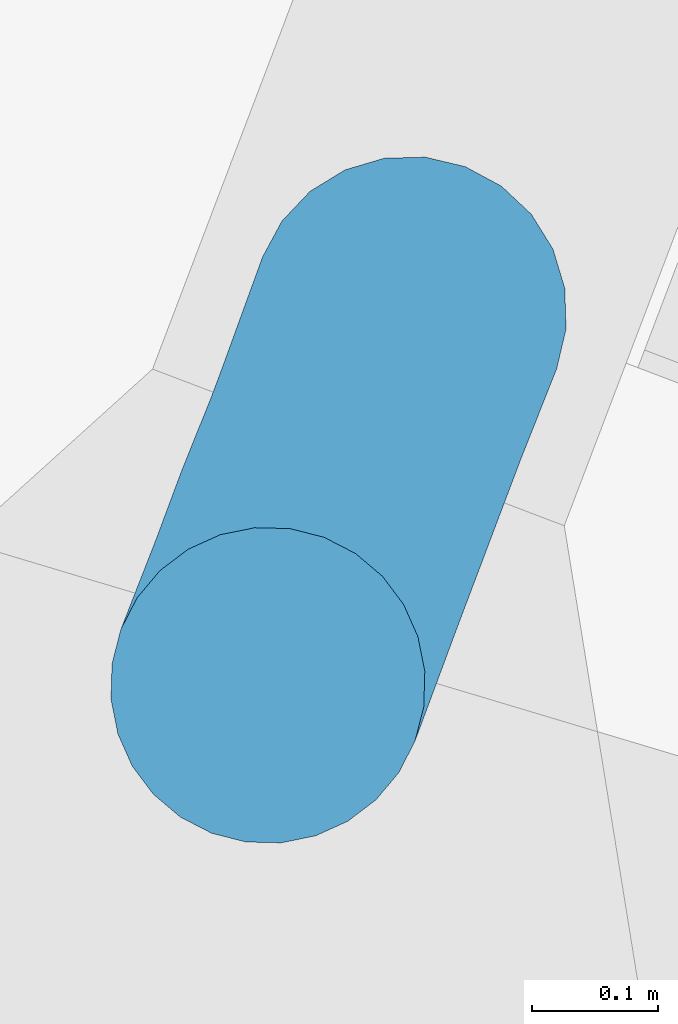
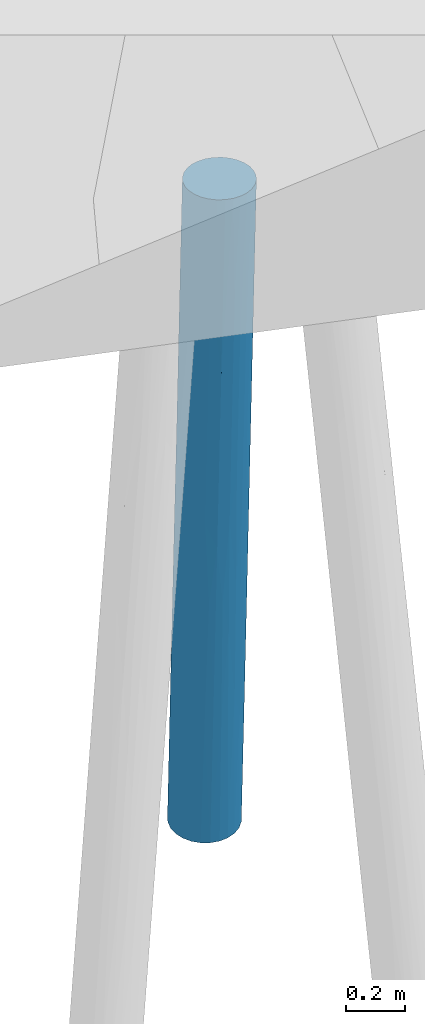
# One storey, part 3 of 46: 1 pile.
"""IFC2X3 building model written with IfcOpenShell, lengths in millimetres."""

from ifc_helpers import new_model, entity, si_unit, converted_unit, derived_unit, direction, frame, origin, place, context, subcontext, project, spatial, faceted_brep, source, transform, mapped, material, type_object, type_shapes, element, save


model = new_model("IFC2X3")

# Units and contexts
model_context = context("Model", 3, precision=0.01, world=origin(), true_north=direction((6.123233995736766e-17, 1.0)))
body_context = subcontext(model_context, "Body", "Model", "MODEL_VIEW")
ifc_project = project(units=[si_unit("LENGTHUNIT", "METRE", prefix="MILLI"), converted_unit("PLANEANGLEUNIT", "DEGREE", entity("IfcPlaneAngleMeasure", 0.017453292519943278), si_unit("PLANEANGLEUNIT", "RADIAN"), dimensions=[0, 0, 0, 0, 0, 0, 0]), si_unit("AREAUNIT", "SQUARE_METRE"), derived_unit("THERMALTRANSMITTANCEUNIT", [(si_unit("MASSUNIT", "GRAM", prefix="KILO"), 1), (si_unit("THERMODYNAMICTEMPERATUREUNIT", "KELVIN"), -1), (si_unit("TIMEUNIT", "SECOND"), -3)])], contexts=[model_context])

# Site, building, storey
site_placement = place(None, frame((-72937.88054949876, 11621.45624098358, 0.0), z_axis=(0.0, 0.0, 1.0), x_axis=(0.9346418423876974, -0.35559053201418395, 0.0)))
site = spatial("IfcSite", under=ifc_project, at=site_placement, Name="Default", CompositionType="ELEMENT")
building_placement = place(site_placement, origin())
building = spatial("IfcBuilding", under=site, at=building_placement, CompositionType="ELEMENT")
storey_placement = place(building_placement, origin())
storey = spatial("IfcBuildingStorey", under=building, at=storey_placement, Name="00 begane grond", CompositionType="ELEMENT", Elevation=0.0)

# Pile
ifc_material = material(Name="beton_gewapend_prefab-element_c45/55")
type_product = type_object("IfcTypeProduct", Name="Type 01", material=ifc_material)
shared_shape = source(origin(), body_context, "Body", "Brep", [
    faceted_brep([(124.838162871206, -27.815116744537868, -1150.0), (115.53639022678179, -54.2354673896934, -1150.0), (72.36643070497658, -41.239861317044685, -1587.2480771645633), (-111.09194578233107, -54.23546738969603, -1150.0), (-165.1894529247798, -41.33003827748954, -1588.444859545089), (-182.07875772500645, -65.1457063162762, -1842.6627389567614), (-30.14575159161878, -64.60051474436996, -2410.3553271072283), (32.98344934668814, -64.94314047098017, -1840.3127773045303), (15.031797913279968, -88.27496307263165, -1836.1297740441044), (41.77006032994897, 0.0, -1925.9925992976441), (100.55257203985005, -77.9362252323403, -1150.0), (80.6380595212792, -97.7289353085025, -1150.0), (-180.54618184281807, -99.16916754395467, -3483.986786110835), (-108.1734310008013, -106.74566752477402, -2732.5343267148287), (-175.6519081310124, -115.48494156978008, -3184.0354063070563), (-42.91884640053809, -117.90464735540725, -1932.203812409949), (56.79144948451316, -112.62110848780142, -1150.0), (30.20851053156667, -121.8659890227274, -1150.0), (-120.39371842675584, -27.81511674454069, -1150.0), (-242.98263969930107, -88.62069146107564, -2558.5627355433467), (-162.25875578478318, -88.50075404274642, -1830.9574517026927), (-245.70385641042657, -64.88368548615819, -2413.843724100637), (-194.4421984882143, -32.35238063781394, -4013.333582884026), (-133.56769714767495, -28.49629953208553, -3474.2266886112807), (-151.93048965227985, -53.33845094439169, -3561.073967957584), (12.222467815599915, -106.275938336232, -1655.8961403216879), (-23.42762089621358, -124.20079095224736, -1508.642990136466), (-80.64748703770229, -124.2366812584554, -1770.9263967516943), (-73.06982999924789, -124.27812918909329, -1949.101189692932), (-265.024992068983, -123.93060767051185, -3407.479310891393), (-314.4444444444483, -125.0, -4000.0), (-240.21076201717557, -123.93060767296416, -3479.642475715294), (-190.20897761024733, 0.0, -4013.803940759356), (-117.33081280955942, 0.0, -3357.900457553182), (-25.764066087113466, -121.86598902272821, -1150.0), (2.2222222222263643, -125.0, -1150.0), (-317.9689709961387, -23.60182842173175, -2920.157783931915), (-375.26894382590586, -28.366113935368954, -3445.0277270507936), (-326.96702366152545, -47.83542903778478, -3066.9425894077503), (-73.70805836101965, -23.187811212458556, -2945.6497765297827), (16.085837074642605, -41.18767244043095, -2093.938466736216), (-39.92708990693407, -41.47720200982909, -2597.136214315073), (-183.66520352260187, -123.01104339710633, -3024.1067526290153), (-196.28435151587, -123.47165352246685, -2760.09510592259), (-252.3267110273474, -108.25317547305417, -4006.901970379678), (-226.59670338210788, -88.38834764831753, -4009.7608601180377), (-206.8533741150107, -62.49999999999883, -4011.9545633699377), (-148.27550792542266, -76.09517863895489, -3402.494577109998), (-119.74622127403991, -106.37235269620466, -1653.229951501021), (-99.40312932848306, -118.21391771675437, -1696.7443345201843), (-52.347005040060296, -112.62110848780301, -1150.0), (-238.2779479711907, -106.2597512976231, -2718.3665211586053), (-185.92128902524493, -102.46025049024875, -2194.904710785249), (-42.820885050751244, -102.58547775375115, -2202.1491422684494), (-156.2252162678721, -118.09364807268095, -2204.9892079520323), (-264.72929865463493, -115.48494155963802, -3119.3954545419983), (-319.0271104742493, -115.48494156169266, -3608.075760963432), (-76.19361507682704, -97.72893530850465, -1150.0), (-96.10812759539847, -77.93622523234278, -1150.0), (-44.45199380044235, 0.0, -2701.9910864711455), (-1.3402226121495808, 0.0, -2313.985145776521), (-292.9202820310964, -72.79893776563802, -2886.1326580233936), (-292.6922084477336, -91.63383624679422, -3034.349570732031), (-282.2899395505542, -120.74072828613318, -4003.5727227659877), (-227.3188222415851, -115.48494156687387, -3649.037633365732), (-209.76851175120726, 0.0, -1925.9934634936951), (-221.60043037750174, -41.38232604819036, -2096.3096577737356), (-376.56217786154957, -108.25317547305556, -3993.0980296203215), (-346.59894933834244, -120.74072828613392, -3996.4272772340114), (-66.21715172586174, -88.15377228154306, -2568.4634430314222), (-129.97696806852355, -118.32629651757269, -2704.7019880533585), (-123.5470158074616, 0.0, -1150.0), (-377.52744650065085, -52.97984274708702, -3542.5215927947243), (-345.70385271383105, -76.09517862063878, -3383.3196685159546), (-275.8885685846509, -42.22399193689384, -2587.6075033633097), (-422.0355147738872, -62.50000000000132, -3988.0454366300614), (-402.29218550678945, -88.38834764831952, -3990.239139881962), (-331.8470727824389, -99.16916753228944, -3467.5525053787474), (-132.4434459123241, -124.68323586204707, -2281.458802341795), (-96.52658231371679, -47.8354290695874, -3084.4998642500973), (-89.11715414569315, -71.65077909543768, -2899.5648185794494), (127.99146025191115, 0.0, -1150.0), (-252.87925972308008, 0.0, -2313.9901952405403), (-122.93481462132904, -90.89446365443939, -3053.447507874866), (-434.4466904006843, -32.352380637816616, -3986.6664171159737), (-438.679911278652, 0.0, -3986.1960592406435), (-141.73877836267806, -124.16072599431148, -2576.5969257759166), (-210.06991733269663, -117.23436667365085, -2667.8819222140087), (-295.9900076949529, 0.0, -2701.9869269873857), (-367.3349594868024, 0.0, -3344.0914931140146), (124.83816287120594, 27.815116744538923, -1150.0), (115.53639022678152, 54.23546738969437, -1150.0), (100.55257203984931, 77.93622523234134, -1150.0), (80.63805952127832, 97.7289353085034, -1150.0), (56.79144948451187, 112.62110848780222, -1150.0), (30.20851053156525, 121.86598902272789, -1150.0), (2.22222222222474, 125.0, -1150.0), (-25.76406608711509, 121.86598902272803, -1150.0), (-52.34700504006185, 112.62110848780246, -1150.0), (-76.1936150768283, 97.72893530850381, -1150.0), (-96.10812759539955, 77.93622523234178, -1150.0), (-111.09194578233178, 54.23546738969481, -1150.0), (-120.39371842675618, 27.815116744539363, -1150.0), (-96.52658225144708, 47.83542901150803, -3084.4998639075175), (-133.5676976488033, 28.496299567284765, -3474.2266930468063), (-151.9304895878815, 53.338451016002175, -3561.073967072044), (-176.7825211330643, 87.58614607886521, -1953.453255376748), (-126.78568187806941, 88.44799753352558, -1511.2211246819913), (-140.32328536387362, 105.94191584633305, -1832.1538289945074), (-185.53475823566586, 41.3488976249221, -1771.6124540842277), (-98.5233768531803, 124.24251446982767, -1932.2861052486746), (-159.3540506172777, 67.83984168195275, -1653.46778938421), (-221.49211536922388, 66.66107193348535, -2205.8974607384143), (-402.2921855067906, 88.38834764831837, -3990.239139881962), (-352.8086337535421, 76.09517892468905, -3447.262699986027), (-312.10423006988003, 99.16916769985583, -3289.866922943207), (-282.2899395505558, 120.74072828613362, -4003.5727227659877), (-314.44444444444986, 125.0, -4000.0), (-235.4135805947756, 123.93060766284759, -3436.467843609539), (-362.94366171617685, 26.27355326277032, -3329.855963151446), (-328.2998352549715, 47.83542988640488, -3078.9378969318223), (-384.2243809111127, 47.83542945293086, -3582.258806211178), (-376.562177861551, 108.25317547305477, -3993.0980296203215), (-180.54618171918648, 99.16916751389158, -3483.9867853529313), (-148.27550783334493, 76.0951785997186, -3402.49457655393), (-226.59670338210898, 88.38834764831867, -4009.7608601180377), (-163.5203657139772, 118.46525212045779, -2280.489865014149), (-104.92272192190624, 118.27912572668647, -1748.143371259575), (-89.11715398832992, 71.6507788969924, -2899.5648184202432), (-39.927089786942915, 41.4772017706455, -2597.1362139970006), (-274.28881423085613, 82.15433137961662, -2785.484682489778), (-221.11735801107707, 106.04994682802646, -2560.8655013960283), (-422.03551477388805, 62.49999999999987, -3988.0454366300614), (-434.4466904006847, 32.35238063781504, -3986.6664171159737), (-180.90977316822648, 122.95522291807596, -3002.0876370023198), (-141.73877802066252, 124.16072595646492, -2576.596925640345), (-129.97696798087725, 118.32629644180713, -2704.701989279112), (-180.2811496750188, 124.04234815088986, -2652.685215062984), (-242.59310629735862, 123.930607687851, -3205.592340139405), (-232.5682987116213, 117.68101498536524, -2881.4778788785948), (-301.7888662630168, 115.48494161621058, -3452.931564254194), (-346.598949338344, 120.7407282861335, -3996.4272772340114), (-206.85337411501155, 62.50000000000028, -4011.9545633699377), (-42.918846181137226, 117.90464729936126, -1932.2038118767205), (-83.49872980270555, 124.18127902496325, -2050.8284888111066), (-29.55955353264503, 124.19873841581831, -1563.9938530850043), (15.03179802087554, 88.27496298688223, -1836.1297738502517), (32.983449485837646, 64.94314037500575, -1840.3127765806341), (-30.14575143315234, 64.60051457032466, -2410.3553266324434), (-42.820884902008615, 102.58547764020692, -2202.149142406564), (12.222467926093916, 106.27593827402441, -1655.89614023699), (-73.70805863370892, 23.18781108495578, -2945.6497792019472), (16.08583725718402, 41.18767230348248, -2093.9384655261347), (72.36643080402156, 41.2398612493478, -1587.2480764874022), (-221.94118502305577, 91.78881553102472, -2399.105716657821), (-108.17343087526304, 106.7456674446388, -2732.5343267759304), (-66.2171515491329, 88.15377212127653, -2568.463442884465), (-122.93481449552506, 90.89446347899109, -3053.447508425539), (-262.27997921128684, 34.77836369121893, -2443.29023072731), (-227.3188223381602, 115.48494155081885, -3649.037634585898), (-252.32671102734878, 108.25317547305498, -4006.901970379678), (-277.036285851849, 61.03344887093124, -2675.5040755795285), (-194.44219848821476, 32.35238063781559, -4013.333582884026), (-312.1095376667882, 26.52940126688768, -2872.8494770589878), (-175.65190824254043, 115.48494153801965, -3184.035408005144)], [[[0, 1, 2]], [[3, 4, 5]], [[6, 7, 8]], [[9, 0, 2]], [[8, 10, 11]], [[12, 13, 14]], [[15, 16, 17]], [[4, 3, 18]], [[19, 20, 21]], [[22, 23, 24]], [[11, 16, 25]], [[26, 27, 28]], [[29, 30, 31]], [[32, 33, 23]], [[10, 8, 7]], [[34, 27, 35]], [[36, 37, 38]], [[33, 39, 23]], [[40, 6, 41]], [[42, 43, 29]], [[44, 45, 12]], [[20, 5, 21]], [[26, 17, 35]], [[45, 46, 47]], [[48, 49, 50]], [[19, 51, 52]], [[53, 25, 15]], [[46, 24, 47]], [[48, 54, 49]], [[55, 56, 29]], [[57, 58, 20]], [[40, 59, 60, 9]], [[61, 62, 19]], [[2, 7, 40]], [[63, 44, 64]], [[65, 66, 4]], [[3, 5, 58]], [[20, 52, 48]], [[67, 68, 56]], [[29, 43, 55]], [[69, 53, 13]], [[13, 70, 14]], [[18, 71, 65]], [[72, 73, 38]], [[68, 30, 29]], [[74, 36, 38]], [[62, 51, 19]], [[38, 61, 74]], [[37, 72, 38]], [[75, 76, 73]], [[76, 77, 73]], [[57, 20, 48]], [[12, 45, 47]], [[6, 40, 7]], [[78, 54, 43]], [[27, 78, 28]], [[79, 41, 80]], [[81, 0, 9]], [[66, 65, 82]], [[41, 39, 59]], [[13, 12, 83]], [[76, 67, 77]], [[84, 37, 85]], [[21, 61, 19]], [[30, 63, 31]], [[31, 42, 29]], [[47, 80, 83]], [[64, 12, 14]], [[56, 77, 67]], [[51, 62, 77]], [[64, 31, 63]], [[14, 70, 42]], [[1, 10, 7]], [[9, 2, 40]], [[7, 2, 1]], [[6, 8, 69]], [[80, 6, 69]], [[6, 80, 41]], [[65, 4, 18]], [[5, 4, 66]], [[5, 66, 21]], [[58, 5, 20]], [[74, 21, 66]], [[61, 38, 73]], [[78, 43, 86]], [[55, 87, 51]], [[83, 80, 69]], [[79, 80, 47]], [[83, 69, 13]], [[47, 83, 12]], [[53, 69, 8]], [[70, 15, 86]], [[25, 53, 8]], [[70, 53, 15]], [[11, 25, 8]], [[15, 25, 16]], [[39, 41, 79]], [[59, 40, 41]], [[23, 39, 79]], [[33, 59, 39]], [[24, 23, 79]], [[32, 23, 22]], [[47, 24, 79]], [[22, 24, 46]], [[61, 21, 74]], [[62, 73, 77]], [[73, 62, 61]], [[51, 77, 55]], [[87, 55, 43]], [[19, 52, 20]], [[51, 54, 52]], [[27, 49, 54]], [[54, 48, 52]], [[57, 48, 50]], [[70, 13, 53]], [[42, 70, 86]], [[43, 42, 86]], [[14, 42, 31]], [[29, 56, 68]], [[74, 66, 82]], [[88, 89, 36, 82]], [[37, 36, 89]], [[85, 37, 89]], [[72, 84, 75]], [[84, 72, 37]], [[73, 72, 75]], [[43, 54, 87]], [[54, 51, 87]], [[36, 74, 82]], [[77, 56, 55]], [[28, 86, 15]], [[54, 78, 27]], [[86, 28, 78]], [[26, 15, 17]], [[27, 26, 35]], [[15, 26, 28]], [[12, 64, 44]], [[31, 64, 14]], [[27, 34, 49]], [[50, 49, 34]], [[34, 35, 17, 16, 11, 10, 1, 0, 81, 90, 91, 92, 93, 94, 95, 96, 97, 98, 99, 100, 101, 102, 71, 18, 3, 58, 57, 50]], [[103, 104, 105]], [[90, 81, 9]], [[106, 107, 108]], [[109, 102, 101]], [[110, 97, 96]], [[111, 112, 109]], [[113, 114, 115]], [[116, 117, 118]], [[98, 108, 99]], [[119, 120, 121]], [[113, 115, 122]], [[106, 112, 111]], [[123, 124, 125]], [[110, 126, 127]], [[119, 85, 89]], [[65, 71, 102]], [[103, 128, 129]], [[115, 130, 131]], [[108, 127, 126]], [[132, 133, 121]], [[134, 135, 136]], [[137, 138, 139]], [[140, 141, 122]], [[142, 125, 124]], [[143, 144, 145]], [[146, 147, 148]], [[146, 149, 150]], [[130, 115, 114]], [[151, 104, 103]], [[143, 136, 144]], [[9, 152, 153]], [[140, 122, 115]], [[143, 95, 94]], [[98, 97, 127]], [[92, 146, 93]], [[138, 140, 139]], [[131, 130, 154]], [[129, 151, 103]], [[117, 141, 138]], [[118, 117, 138]], [[155, 156, 157]], [[96, 95, 145]], [[109, 158, 65]], [[116, 159, 160]], [[143, 149, 136]], [[153, 91, 90]], [[105, 124, 103]], [[112, 158, 109]], [[146, 148, 156]], [[100, 111, 101]], [[128, 157, 156]], [[147, 92, 91]], [[91, 153, 147]], [[150, 93, 146]], [[156, 155, 149]], [[161, 158, 112]], [[65, 102, 109]], [[113, 132, 114]], [[139, 140, 115]], [[125, 160, 123]], [[152, 9, 60]], [[162, 104, 32]], [[148, 128, 156]], [[138, 137, 134]], [[163, 158, 120]], [[159, 118, 164]], [[121, 114, 132]], [[130, 161, 112]], [[161, 114, 120]], [[112, 106, 154]], [[139, 115, 131]], [[138, 141, 140]], [[163, 120, 119]], [[158, 88, 82, 65]], [[159, 123, 160]], [[155, 157, 123]], [[9, 153, 90]], [[147, 153, 152]], [[147, 152, 148]], [[92, 147, 146]], [[129, 148, 152]], [[128, 103, 124]], [[131, 126, 139]], [[135, 134, 137]], [[108, 126, 131]], [[110, 144, 137]], [[139, 126, 137]], [[110, 137, 126]], [[128, 148, 129]], [[157, 124, 123]], [[124, 157, 128]], [[155, 123, 164]], [[136, 155, 164]], [[156, 149, 146]], [[136, 149, 155]], [[150, 143, 94]], [[143, 150, 149]], [[93, 150, 94]], [[101, 111, 109]], [[129, 152, 60]], [[59, 33, 151]], [[104, 151, 33]], [[32, 104, 33]], [[105, 162, 142]], [[162, 105, 104]], [[124, 105, 142]], [[98, 127, 108]], [[97, 110, 127]], [[134, 164, 118]], [[136, 135, 144]], [[164, 134, 136]], [[138, 134, 118]], [[133, 85, 119]], [[114, 121, 120]], [[133, 119, 121]], [[163, 89, 88]], [[89, 163, 119]], [[88, 158, 163]], [[59, 151, 129]], [[60, 59, 129]], [[100, 99, 107]], [[111, 100, 107]], [[154, 108, 131]], [[108, 107, 99]], [[111, 107, 106]], [[137, 144, 135]], [[145, 110, 96]], [[143, 145, 95]], [[110, 145, 144]], [[118, 159, 116]], [[123, 159, 164]], [[114, 161, 130]], [[158, 161, 120]], [[112, 154, 130]], [[108, 154, 106]], [[141, 117, 116, 160, 125, 142, 162, 32, 22, 46, 45, 44, 63, 30, 68, 67, 76, 75, 84, 85, 133, 132, 113, 122]]]),
])
type_shapes(type_product, [shared_shape])
pile_placement = place(storey_placement, frame((57570.0, 14941.823656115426, 0.0), z_axis=(0.0, 0.0, 1.0), x_axis=(0.0, -1.0, 0.0)))
element("IfcPile", 1, at=pile_placement, inside=storey, type_object=type_product, material=ifc_material, Name="17.21_Prefab funderingspaal rond", ObjectType="prefab paal rond", PredefinedType="NOTDEFINED", context=body_context, shape_type="MappedRepresentation", body=[
    mapped(shared_shape, transform((0.0, 0.0, 0.0), scale=1.0)),
])

save(model, "model.ifc")
